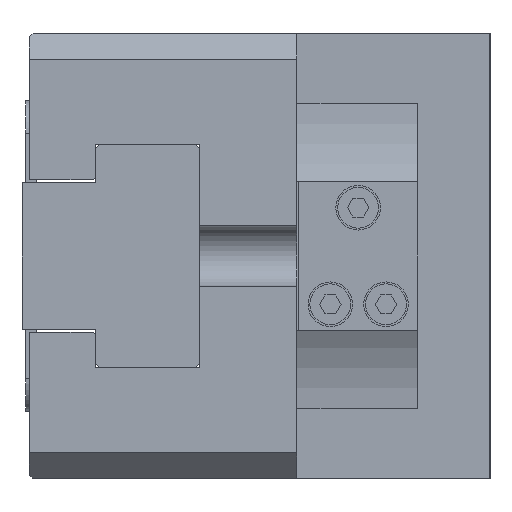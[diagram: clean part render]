
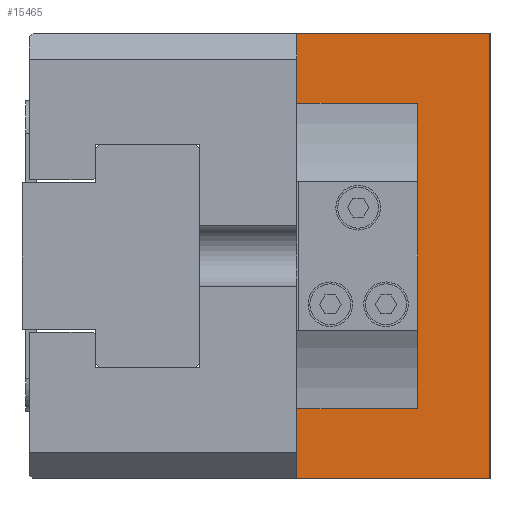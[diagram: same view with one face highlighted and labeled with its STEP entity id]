
A CAD part, left-side view. The second image highlights one B-rep face of the part: STEP entity #15465.
In plain terms, the highlighted planar face has unit normal (-1, 0, 0).
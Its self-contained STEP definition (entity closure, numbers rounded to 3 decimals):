
#77 = CARTESIAN_POINT ( 'NONE',  ( -50., 0., -20.536 ) ) ;
#322 = CARTESIAN_POINT ( 'NONE',  ( -50., 9.75, -20.536 ) ) ;
#717 = LINE ( 'NONE', #6554, #15111 ) ;
#774 = LINE ( 'NONE', #17846, #11468 ) ;
#866 = DIRECTION ( 'NONE',  ( 0., -1., 0. ) ) ;
#1407 = DIRECTION ( 'NONE',  ( 0., 0., 1. ) ) ;
#1503 = CARTESIAN_POINT ( 'NONE',  ( -50., 26., 30. ) ) ;
#1795 = ORIENTED_EDGE ( 'NONE', *, *, #15414, .T. ) ;
#1944 = EDGE_CURVE ( 'NONE', #2036, #16379, #2661, .T. ) ;
#2036 = VERTEX_POINT ( 'NONE', #322 ) ;
#2256 = CARTESIAN_POINT ( 'NONE',  ( -50., 9.75, 20.536 ) ) ;
#2661 = LINE ( 'NONE', #77, #13404 ) ;
#2907 = EDGE_CURVE ( 'NONE', #14638, #9393, #5448, .T. ) ;
#3213 = VECTOR ( 'NONE', #866, 1000. ) ;
#3603 = CARTESIAN_POINT ( 'NONE',  ( -50., 0., 30. ) ) ;
#4071 = VERTEX_POINT ( 'NONE', #2256 ) ;
#4129 = CARTESIAN_POINT ( 'NONE',  ( -50., 0., 30. ) ) ;
#4263 = DIRECTION ( 'NONE',  ( 0., 1., 0. ) ) ;
#4332 = EDGE_LOOP ( 'NONE', ( #10834, #1795, #16446, #9595, #15817, #4720, #12638, #17255 ) ) ;
#4720 = ORIENTED_EDGE ( 'NONE', *, *, #12205, .T. ) ;
#4993 = PLANE ( 'NONE',  #12838 ) ;
#5148 = VERTEX_POINT ( 'NONE', #12662 ) ;
#5448 = LINE ( 'NONE', #9771, #12924 ) ;
#5846 = DIRECTION ( 'NONE',  ( 0., 1., 0. ) ) ;
#6407 = DIRECTION ( 'NONE',  ( 0., 0., 1. ) ) ;
#6554 = CARTESIAN_POINT ( 'NONE',  ( -50., 0., 30. ) ) ;
#6668 = EDGE_CURVE ( 'NONE', #4071, #2036, #774, .T. ) ;
#6905 = LINE ( 'NONE', #13398, #3213 ) ;
#8897 = CARTESIAN_POINT ( 'NONE',  ( -50., 0., -30. ) ) ;
#9393 = VERTEX_POINT ( 'NONE', #1503 ) ;
#9595 = ORIENTED_EDGE ( 'NONE', *, *, #1944, .T. ) ;
#9771 = CARTESIAN_POINT ( 'NONE',  ( -50., 26., 30. ) ) ;
#10834 = ORIENTED_EDGE ( 'NONE', *, *, #2907, .F. ) ;
#10903 = VERTEX_POINT ( 'NONE', #4129 ) ;
#11468 = VECTOR ( 'NONE', #15083, 1000. ) ;
#11719 = VERTEX_POINT ( 'NONE', #8897 ) ;
#12205 = EDGE_CURVE ( 'NONE', #5148, #11719, #6905, .T. ) ;
#12289 = CARTESIAN_POINT ( 'NONE',  ( -50., 26., 20.536 ) ) ;
#12535 = EDGE_CURVE ( 'NONE', #10903, #9393, #14794, .T. ) ;
#12638 = ORIENTED_EDGE ( 'NONE', *, *, #13557, .T. ) ;
#12662 = CARTESIAN_POINT ( 'NONE',  ( -50., 26., -30. ) ) ;
#12838 = AXIS2_PLACEMENT_3D ( 'NONE', #3603, #14738, #6407 ) ;
#12924 = VECTOR ( 'NONE', #1407, 1000. ) ;
#13097 = VECTOR ( 'NONE', #13271, 1000. ) ;
#13271 = DIRECTION ( 'NONE',  ( 0., -1., 0. ) ) ;
#13378 = CARTESIAN_POINT ( 'NONE',  ( -50., 26., -20.536 ) ) ;
#13398 = CARTESIAN_POINT ( 'NONE',  ( -50., 0., -30. ) ) ;
#13404 = VECTOR ( 'NONE', #4263, 1000. ) ;
#13539 = DIRECTION ( 'NONE',  ( 0., 0., 1. ) ) ;
#13557 = EDGE_CURVE ( 'NONE', #11719, #10903, #717, .T. ) ;
#14233 = CARTESIAN_POINT ( 'NONE',  ( -50., 62., 30. ) ) ;
#14638 = VERTEX_POINT ( 'NONE', #12289 ) ;
#14738 = DIRECTION ( 'NONE',  ( -1., 0., 0. ) ) ;
#14794 = LINE ( 'NONE', #14233, #18053 ) ;
#15083 = DIRECTION ( 'NONE',  ( 0., 0., -1. ) ) ;
#15111 = VECTOR ( 'NONE', #13539, 1000. ) ;
#15414 = EDGE_CURVE ( 'NONE', #14638, #4071, #16764, .T. ) ;
#15449 = VECTOR ( 'NONE', #17666, 1000. ) ;
#15465 = ADVANCED_FACE ( 'NONE', ( #15921 ), #4993, .T. ) ;
#15797 = EDGE_CURVE ( 'NONE', #5148, #16379, #15903, .T. ) ;
#15817 = ORIENTED_EDGE ( 'NONE', *, *, #15797, .F. ) ;
#15903 = LINE ( 'NONE', #16254, #15449 ) ;
#15921 = FACE_OUTER_BOUND ( 'NONE', #4332, .T. ) ;
#16254 = CARTESIAN_POINT ( 'NONE',  ( -50., 26., 30. ) ) ;
#16379 = VERTEX_POINT ( 'NONE', #13378 ) ;
#16446 = ORIENTED_EDGE ( 'NONE', *, *, #6668, .T. ) ;
#16764 = LINE ( 'NONE', #17425, #13097 ) ;
#17255 = ORIENTED_EDGE ( 'NONE', *, *, #12535, .T. ) ;
#17425 = CARTESIAN_POINT ( 'NONE',  ( -50., 0., 20.536 ) ) ;
#17666 = DIRECTION ( 'NONE',  ( 0., 0., 1. ) ) ;
#17846 = CARTESIAN_POINT ( 'NONE',  ( -50., 9.75, 30. ) ) ;
#18053 = VECTOR ( 'NONE', #5846, 1000. ) ;
